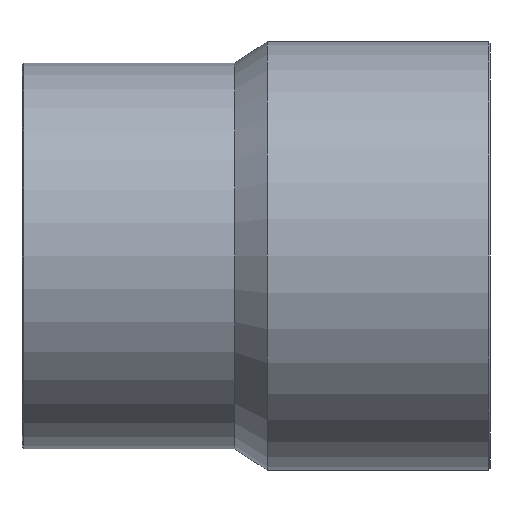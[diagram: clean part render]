
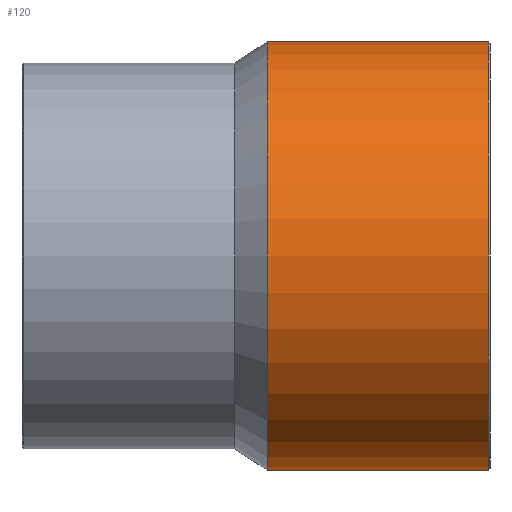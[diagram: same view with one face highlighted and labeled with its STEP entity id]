
A CAD part, front view. The second image highlights one B-rep face of the part: STEP entity #120.
In plain terms, the highlighted cylindrical face has radius 125 mm (diameter 250 mm), a full revolution.
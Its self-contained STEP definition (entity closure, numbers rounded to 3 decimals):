
#26=ORIENTED_EDGE('',*,*,#46,.T.);
#27=ORIENTED_EDGE('',*,*,#47,.F.);
#46=EDGE_CURVE('',#56,#56,#66,.T.);
#47=EDGE_CURVE('',#57,#57,#67,.T.);
#56=VERTEX_POINT('',#208);
#57=VERTEX_POINT('',#210);
#66=CIRCLE('',#144,125.);
#67=CIRCLE('',#145,125.);
#76=EDGE_LOOP('',(#26));
#77=EDGE_LOOP('',(#27));
#96=FACE_BOUND('',#76,.T.);
#97=FACE_BOUND('',#77,.T.);
#116=CYLINDRICAL_SURFACE('',#143,125.);
#120=ADVANCED_FACE('',(#96,#97),#116,.T.);
#143=AXIS2_PLACEMENT_3D('',#206,#165,#166);
#144=AXIS2_PLACEMENT_3D('',#207,#167,#168);
#145=AXIS2_PLACEMENT_3D('',#209,#169,#170);
#165=DIRECTION('',(-1.,0.,0.));
#166=DIRECTION('',(0.,0.,1.));
#167=DIRECTION('',(-1.,0.,0.));
#168=DIRECTION('',(0.,0.,1.));
#169=DIRECTION('',(-1.,0.,0.));
#170=DIRECTION('',(0.,0.,1.));
#206=CARTESIAN_POINT('',(-60.,0.,0.));
#207=CARTESIAN_POINT('',(138.5,0.,0.));
#208=CARTESIAN_POINT('',(138.5,0.,125.));
#209=CARTESIAN_POINT('',(9.5,0.,0.));
#210=CARTESIAN_POINT('',(9.5,0.,125.));
